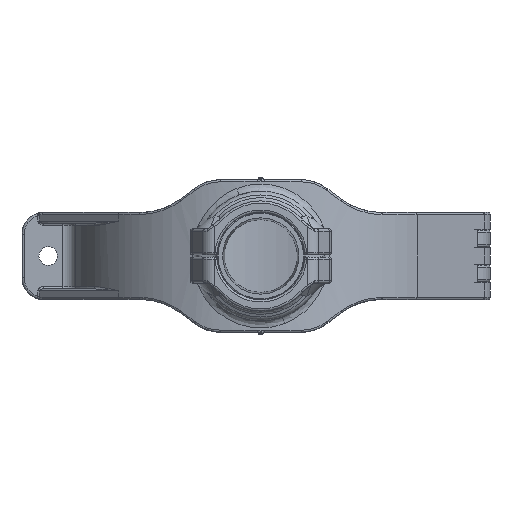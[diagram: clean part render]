
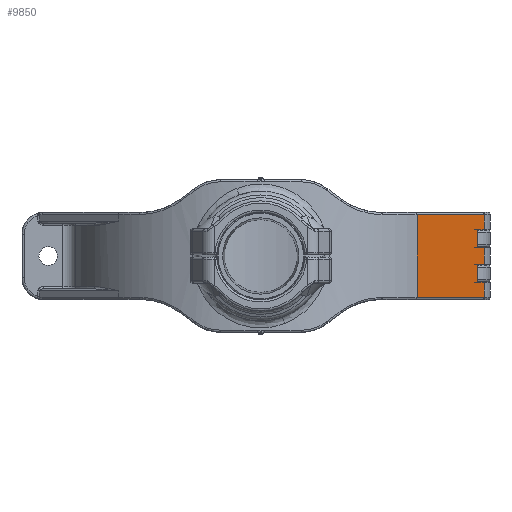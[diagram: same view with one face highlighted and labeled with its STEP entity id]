
A CAD part, front view. The second image highlights one B-rep face of the part: STEP entity #9850.
In plain terms, the highlighted planar face has unit normal (0.813, -0.582, 0).
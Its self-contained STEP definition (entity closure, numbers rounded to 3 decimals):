
#821=DIRECTION('',(-0.582,-0.813,0.));
#822=VECTOR('',#821,53.39);
#823=CARTESIAN_POINT('',(103.252,-8.205,19.142));
#824=LINE('',#823,#822);
#1040=DIRECTION('',(0.582,0.813,0.));
#1041=VECTOR('',#1040,5.425);
#1042=CARTESIAN_POINT('',(100.096,-12.618,12.241));
#1043=LINE('',#1042,#1041);
#1095=DIRECTION('',(0.,0.,1.));
#1096=VECTOR('',#1095,8.362);
#1097=CARTESIAN_POINT('',(100.096,-12.618,3.879));
#1098=LINE('',#1097,#1096);
#1133=DIRECTION('',(-0.582,-0.813,0.));
#1134=VECTOR('',#1133,5.425);
#1135=CARTESIAN_POINT('',(103.252,-8.205,3.879));
#1136=LINE('',#1135,#1134);
#1172=DIRECTION('',(0.,0.,1.));
#1173=VECTOR('',#1172,7.757);
#1174=CARTESIAN_POINT('',(103.252,-8.205,-3.879));
#1175=LINE('',#1174,#1173);
#1193=DIRECTION('',(0.,0.,1.));
#1194=VECTOR('',#1193,6.901);
#1195=CARTESIAN_POINT('',(103.252,-8.205,12.241));
#1196=LINE('',#1195,#1194);
#1208=DIRECTION('',(0.582,0.813,0.));
#1209=VECTOR('',#1208,5.425);
#1210=CARTESIAN_POINT('',(100.096,-12.618,-3.879));
#1211=LINE('',#1210,#1209);
#1263=DIRECTION('',(0.,0.,1.));
#1264=VECTOR('',#1263,8.362);
#1265=CARTESIAN_POINT('',(100.096,-12.618,
-12.241));
#1266=LINE('',#1265,#1264);
#1301=DIRECTION('',(-0.582,-0.813,0.));
#1302=VECTOR('',#1301,5.425);
#1303=CARTESIAN_POINT('',(103.252,-8.205,
-12.241));
#1304=LINE('',#1303,#1302);
#1340=DIRECTION('',(0.,0.,1.));
#1341=VECTOR('',#1340,6.901);
#1342=CARTESIAN_POINT('',(103.252,-8.205,-19.142));
#1343=LINE('',#1342,#1341);
#2562=DIRECTION('',(0.,0.,-1.));
#2563=VECTOR('',#2562,38.284);
#2564=CARTESIAN_POINT('',(72.195,-51.632,19.142));
#2565=LINE('',#2564,#2563);
#2663=DIRECTION('',(0.582,0.813,0.));
#2664=VECTOR('',#2663,53.39);
#2665=CARTESIAN_POINT('',(72.195,-51.632,-19.142));
#2666=LINE('',#2665,#2664);
#8320=CARTESIAN_POINT('',(72.195,-51.632,19.142));
#8322=VERTEX_POINT('',#8320);
#8323=CARTESIAN_POINT('',(103.252,-8.205,19.142));
#8325=VERTEX_POINT('',#8323);
#8342=CARTESIAN_POINT('',(100.096,-12.618,12.241));
#8344=VERTEX_POINT('',#8342);
#8345=CARTESIAN_POINT('',(103.252,-8.205,12.241));
#8346=VERTEX_POINT('',#8345);
#8349=CARTESIAN_POINT('',(100.096,-12.618,3.879));
#8351=VERTEX_POINT('',#8349);
#8355=CARTESIAN_POINT('',(103.252,-8.205,3.879));
#8356=VERTEX_POINT('',#8355);
#8361=CARTESIAN_POINT('',(103.252,-8.205,-3.879));
#8362=VERTEX_POINT('',#8361);
#8365=CARTESIAN_POINT('',(100.096,-12.618,-3.879));
#8366=VERTEX_POINT('',#8365);
#8367=CARTESIAN_POINT('',(100.096,-12.618,
-12.241));
#8368=VERTEX_POINT('',#8367);
#8369=CARTESIAN_POINT('',(103.252,-8.205,
-12.241));
#8370=VERTEX_POINT('',#8369);
#8371=CARTESIAN_POINT('',(103.252,-8.205,-19.142));
#8372=VERTEX_POINT('',#8371);
#8373=CARTESIAN_POINT('',(72.195,-51.632,-19.142));
#8374=VERTEX_POINT('',#8373);
#9824=CARTESIAN_POINT('',(103.252,-8.205,-20.149));
#9825=DIRECTION('',(-0.813,0.582,0.));
#9826=DIRECTION('',(-0.582,-0.813,0.));
#9827=AXIS2_PLACEMENT_3D('',#9824,#9825,#9826);
#9828=PLANE('',#9827);
#9830=ORIENTED_EDGE('',*,*,#9829,.F.);
#9831=ORIENTED_EDGE('',*,*,#9751,.F.);
#9832=ORIENTED_EDGE('',*,*,#9775,.F.);
#9833=ORIENTED_EDGE('',*,*,#9793,.F.);
#9834=ORIENTED_EDGE('',*,*,#9812,.F.);
#9836=ORIENTED_EDGE('',*,*,#9835,.F.);
#9838=ORIENTED_EDGE('',*,*,#9837,.F.);
#9840=ORIENTED_EDGE('',*,*,#9839,.F.);
#9842=ORIENTED_EDGE('',*,*,#9841,.F.);
#9844=ORIENTED_EDGE('',*,*,#9843,.F.);
#9846=ORIENTED_EDGE('',*,*,#9845,.F.);
#9847=ORIENTED_EDGE('',*,*,#9617,.F.);
#9848=EDGE_LOOP('',(#9830,#9831,#9832,#9833,#9834,#9836,#9838,#9840,#9842,#9844,
#9846,#9847));
#9849=FACE_OUTER_BOUND('',#9848,.F.);
#9617=EDGE_CURVE('',#8325,#8322,#824,.T.);
#9751=EDGE_CURVE('',#8344,#8346,#1043,.T.);
#9775=EDGE_CURVE('',#8351,#8344,#1098,.T.);
#9793=EDGE_CURVE('',#8356,#8351,#1136,.T.);
#9812=EDGE_CURVE('',#8362,#8356,#1175,.T.);
#9829=EDGE_CURVE('',#8346,#8325,#1196,.T.);
#9835=EDGE_CURVE('',#8366,#8362,#1211,.T.);
#9837=EDGE_CURVE('',#8368,#8366,#1266,.T.);
#9839=EDGE_CURVE('',#8370,#8368,#1304,.T.);
#9841=EDGE_CURVE('',#8372,#8370,#1343,.T.);
#9843=EDGE_CURVE('',#8374,#8372,#2666,.T.);
#9845=EDGE_CURVE('',#8322,#8374,#2565,.T.);
#9850=ADVANCED_FACE('',(#9849),#9828,.F.);
